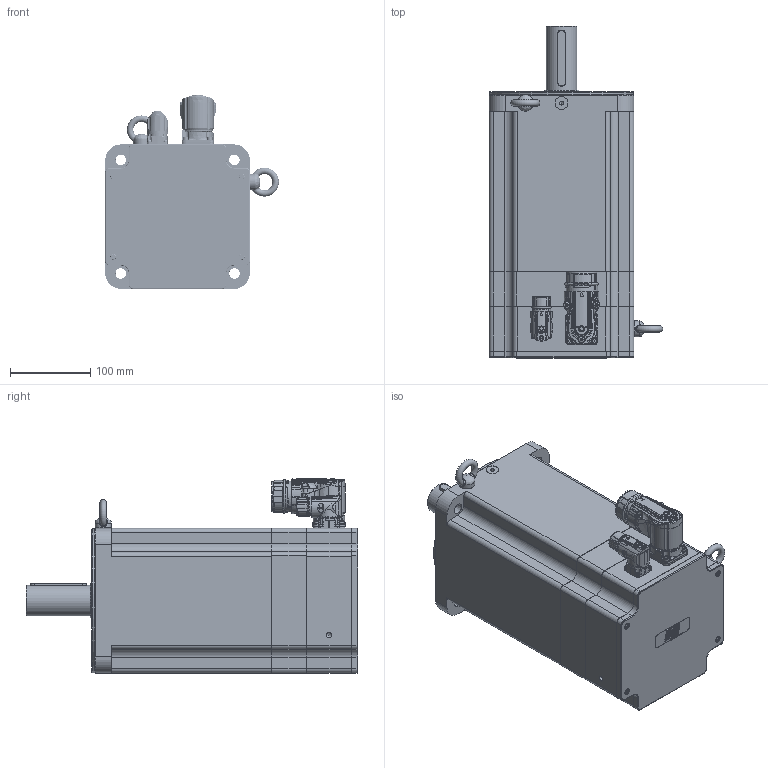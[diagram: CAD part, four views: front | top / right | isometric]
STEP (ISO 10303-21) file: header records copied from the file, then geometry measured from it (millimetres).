
FILE_DESCRIPTION(/* description */ ('Unknown'),/* implementation_level */ '2;1');
FILE_NAME(/* name */ 'TC4-180.7E.X X.X.3.XX.1.X.G3.00.00 Q0B809',/* time_stamp */ '2026-03-10T15:05:59+01:00',/* author */ ('Unknown'),/* organization */ ('Unknown'),/* preprocessor_version */ 'ST-DEVELOPER v19.4',/* originating_system */ 'Solid Edge',/* authorisation */ 'Unknown');
FILE_SCHEMA (('AUTOMOTIVE_DESIGN {1 0 10303 214 3 1 1}'));
Products named in the file (17): Q0B809 7E FRENO VUOTO; 005256003057; 003103040231; 005911000205; 003155002231; Coperchio campana TC4-180; 003003199972; 005113001040; 005119001104; 007117000452; 005911000185; 005911000479; Corpo TC4-180 7E; 005321000010; 005911000180; 003251040631; 007117000454
Assembly tree (33 placements, depth 2):
  Q0B809 7E FRENO VUOTO
    005256003057
    003103040231
    005911000205  x4
    003155002231
    Coperchio campana TC4-180
    003003199972
    005113001040
    005119001104
    007117000452
    005911000185  x4
    005911000479  x8
    Corpo TC4-180 7E
    005321000010  x2
    005911000180  x4
    003251040631
    007117000454
Bounding box: 215.97 x 413 x 241.45 mm (x, y, z)
Volume: 4136014.5 mm3; surface area: 937295.8 mm2
Topology: 34 solids, 61 shells, 3633 faces, 9365 edges, 5903 vertices
Faces by surface type: plane 1297, cylinder 877, bspline 636, cone 376, torus 313, sphere 134
Full cylindrical faces by diameter (mm): 0.5 x1, 1 x17, 1.2 x17, 2 x4, 2.013 x8, 2.5 x4, 3 x5, 3.242 x16, 3.6 x5, 4 x12, 4.134 x16, 4.2 x8, 4.5 x9, 4.7 x4, 4.917 x8, 5 x8, 5.4 x1, 5.5 x9, 5.9 x1, 6.647 x14, 7 x10, 8 x11, 9 x4, 10 x3, 10.106 x2, 14 x4, 15.2 x1, 16 x1, 17.4 x2, 18 x1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
Entity records: 159884 total; most frequent: CARTESIAN_POINT 63675, ORIENTED_EDGE 15722, DIRECTION 14176, EDGE_CURVE 8069, AXIS2_PLACEMENT_3D 5543, VERTEX_POINT 5404, FACE_BOUND 4230, EDGE_LOOP 4200
